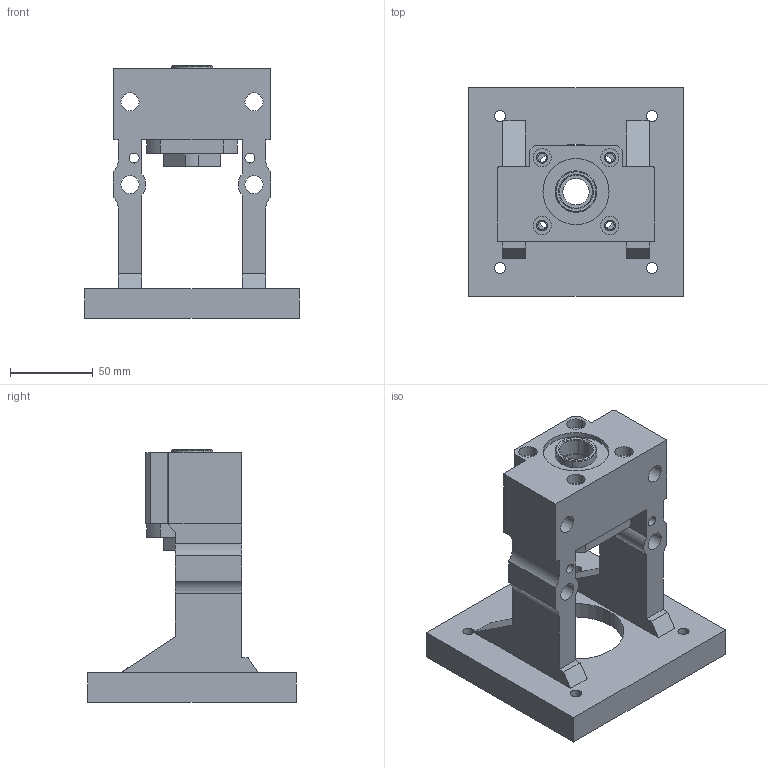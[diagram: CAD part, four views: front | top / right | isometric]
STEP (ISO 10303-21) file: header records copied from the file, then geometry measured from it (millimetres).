
FILE_DESCRIPTION((''),'2;1');
FILE_NAME('M116S_ASM_ASM_ASM','2019-12-30T',('ASUS'),(''),'PRO/ENGINEER BY PARAMETRIC TECHNOLOGY CORPORATION, 2010280','PRO/ENGINEER BY PARAMETRIC TECHNOLOGY CORPORATION, 2010280','');
FILE_SCHEMA(('CONFIG_CONTROL_DESIGN'));
Length unit declared in the file: millimetre
Products named in the file (5): EK20-02; PRT0001; NRA_M20X1; MANIFOLD_SOLID_BREP_458; M116S_ASM_ASM_ASM
Assembly tree (5 placements, depth 2):
  M116S_ASM_ASM_ASM
    EK20-02  x2
    PRT0001
    NRA_M20X1
    MANIFOLD_SOLID_BREP_458
Bounding box: 130 x 126 x 153 mm (x, y, z)
Volume: 502320.3 mm3; surface area: 112245.8 mm2
Topology: 5 solids, 5 shells, 189 faces, 499 edges, 333 vertices
Faces by surface type: cylinder 102, plane 71, cone 16
Entity records: 5942 total; most frequent: CARTESIAN_POINT 1098, DIRECTION 1050, ORIENTED_EDGE 942, EDGE_CURVE 471, AXIS2_PLACEMENT_3D 404, VERTEX_POINT 317, VECTOR 242, LINE 242
